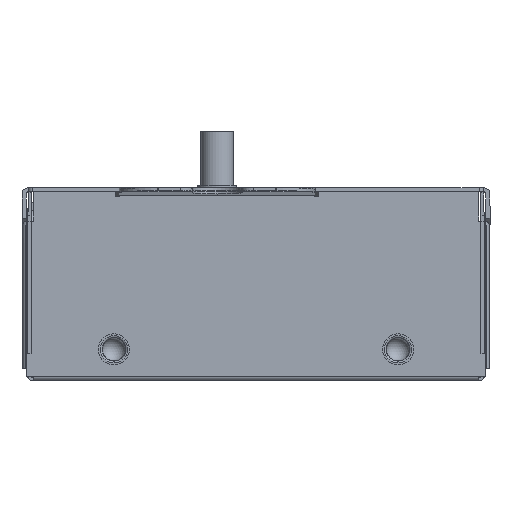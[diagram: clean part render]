
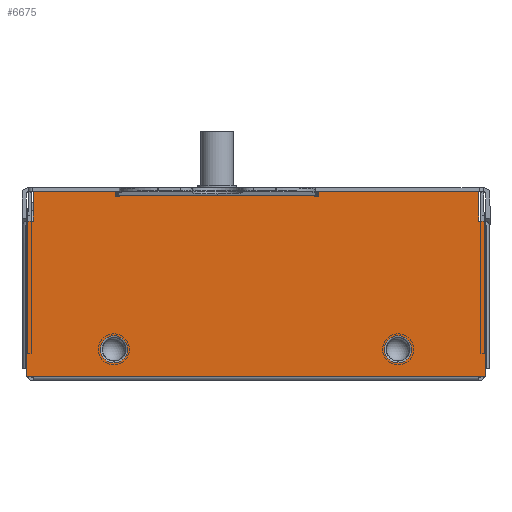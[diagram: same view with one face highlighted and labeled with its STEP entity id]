
A CAD part, left-side view. The second image highlights one B-rep face of the part: STEP entity #6675.
In plain terms, the highlighted planar face has unit normal (-1, 0, 0).
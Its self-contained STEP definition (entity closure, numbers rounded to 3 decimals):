
#6345=CARTESIAN_POINT('',(-0.4,58.25,20.5));
#6346=VERTEX_POINT('',#6345);
#6353=CARTESIAN_POINT('',(-0.4,57.55,20.5));
#6354=VERTEX_POINT('',#6353);
#6355=CARTESIAN_POINT('',(-0.4,57.55,20.5));
#6356=DIRECTION('',(0.0,1.0,0.0));
#6357=VECTOR('',#6356,0.7);
#6358=LINE('',#6355,#6357);
#6359=EDGE_CURVE('',#6354,#6346,#6358,.T.);
#6384=CARTESIAN_POINT('',(-0.4,57.55,24.25));
#6385=VERTEX_POINT('',#6384);
#6386=CARTESIAN_POINT('',(-0.4,57.55,24.25));
#6387=DIRECTION('',(0.0,0.0,-1.0));
#6388=VECTOR('',#6387,3.75);
#6389=LINE('',#6386,#6388);
#6390=EDGE_CURVE('',#6385,#6354,#6389,.T.);
#6416=CARTESIAN_POINT('',(-0.4,0.299,24.25));
#6417=VERTEX_POINT('',#6416);
#6424=CARTESIAN_POINT('',(-0.4,0.299,20.5));
#6425=VERTEX_POINT('',#6424);
#6426=CARTESIAN_POINT('',(-0.4,0.299,20.5));
#6427=DIRECTION('',(0.0,0.0,1.0));
#6428=VECTOR('',#6427,3.75);
#6429=LINE('',#6426,#6428);
#6430=EDGE_CURVE('',#6425,#6417,#6429,.T.);
#6455=CARTESIAN_POINT('',(-0.4,-0.401,20.5));
#6456=VERTEX_POINT('',#6455);
#6457=CARTESIAN_POINT('',(-0.4,-0.401,20.5));
#6458=DIRECTION('',(0.0,1.0,0.0));
#6459=VECTOR('',#6458,0.7);
#6460=LINE('',#6457,#6459);
#6461=EDGE_CURVE('',#6456,#6425,#6460,.T.);
#6518=CARTESIAN_POINT('',(-0.4,28.925,12.149));
#6519=DIRECTION('',(1.0,0.0,0.0));
#6520=DIRECTION('',(0.0,0.0,-1.0));
#6521=AXIS2_PLACEMENT_3D('',#6518,#6519,#6520);
#6522=PLANE('',#6521);
#6523=ORIENTED_EDGE('',*,*,#6390,.T.);
#6524=ORIENTED_EDGE('',*,*,#6359,.T.);
#6525=CARTESIAN_POINT('',(-0.4,58.367,20.5));
#6526=VERTEX_POINT('',#6525);
#6527=CARTESIAN_POINT('',(-0.4,58.25,20.5));
#6528=DIRECTION('',(0.0,1.0,0.0));
#6529=VECTOR('',#6528,0.118);
#6530=LINE('',#6527,#6529);
#6531=EDGE_CURVE('',#6346,#6526,#6530,.T.);
#6532=ORIENTED_EDGE('',*,*,#6531,.T.);
#6533=CARTESIAN_POINT('',(-0.4,58.367,0.533));
#6534=VERTEX_POINT('',#6533);
#6535=CARTESIAN_POINT('',(-0.4,58.367,20.5));
#6536=DIRECTION('',(0.0,0.0,-1.0));
#6537=VECTOR('',#6536,19.967);
#6538=LINE('',#6535,#6537);
#6539=EDGE_CURVE('',#6526,#6534,#6538,.T.);
#6540=ORIENTED_EDGE('',*,*,#6539,.T.);
#6541=CARTESIAN_POINT('',(-0.4,57.567,0.533));
#6542=VERTEX_POINT('',#6541);
#6543=CARTESIAN_POINT('',(-0.4,57.567,0.533));
#6544=DIRECTION('',(0.0,1.0,0.0));
#6545=VECTOR('',#6544,0.8);
#6546=LINE('',#6543,#6545);
#6547=EDGE_CURVE('',#6542,#6534,#6546,.T.);
#6548=ORIENTED_EDGE('',*,*,#6547,.F.);
#6549=CARTESIAN_POINT('',(-0.4,0.283,0.533));
#6550=VERTEX_POINT('',#6549);
#6551=CARTESIAN_POINT('',(-0.4,57.567,0.533));
#6552=DIRECTION('',(0.0,-1.0,0.0));
#6553=VECTOR('',#6552,57.284);
#6554=LINE('',#6551,#6553);
#6555=EDGE_CURVE('',#6542,#6550,#6554,.T.);
#6556=ORIENTED_EDGE('',*,*,#6555,.T.);
#6557=CARTESIAN_POINT('',(-0.4,-0.517,0.533));
#6558=VERTEX_POINT('',#6557);
#6559=CARTESIAN_POINT('',(-0.4,0.283,0.533));
#6560=DIRECTION('',(0.0,-1.0,0.0));
#6561=VECTOR('',#6560,0.8);
#6562=LINE('',#6559,#6561);
#6563=EDGE_CURVE('',#6550,#6558,#6562,.T.);
#6564=ORIENTED_EDGE('',*,*,#6563,.T.);
#6565=CARTESIAN_POINT('',(-0.4,-0.517,20.5));
#6566=VERTEX_POINT('',#6565);
#6567=CARTESIAN_POINT('',(-0.4,-0.517,0.533));
#6568=DIRECTION('',(0.0,0.0,1.0));
#6569=VECTOR('',#6568,19.967);
#6570=LINE('',#6567,#6569);
#6571=EDGE_CURVE('',#6558,#6566,#6570,.T.);
#6572=ORIENTED_EDGE('',*,*,#6571,.T.);
#6573=CARTESIAN_POINT('',(-0.4,-0.517,20.5));
#6574=DIRECTION('',(0.0,1.0,0.0));
#6575=VECTOR('',#6574,0.117);
#6576=LINE('',#6573,#6575);
#6577=EDGE_CURVE('',#6566,#6456,#6576,.T.);
#6578=ORIENTED_EDGE('',*,*,#6577,.T.);
#6579=ORIENTED_EDGE('',*,*,#6461,.T.);
#6580=ORIENTED_EDGE('',*,*,#6430,.T.);
#6581=CARTESIAN_POINT('',(-0.4,20.842,24.25));
#6582=VERTEX_POINT('',#6581);
#6583=CARTESIAN_POINT('',(-0.4,20.842,24.25));
#6584=DIRECTION('',(0.0,-1.0,0.0));
#6585=VECTOR('',#6584,20.542);
#6586=LINE('',#6583,#6585);
#6587=EDGE_CURVE('',#6582,#6417,#6586,.T.);
#6588=ORIENTED_EDGE('',*,*,#6587,.F.);
#6589=CARTESIAN_POINT('',(-0.4,20.842,23.717));
#6590=VERTEX_POINT('',#6589);
#6591=CARTESIAN_POINT('',(-0.4,20.842,24.25));
#6592=DIRECTION('',(0.0,0.0,-1.0));
#6593=VECTOR('',#6592,0.533);
#6594=LINE('',#6591,#6593);
#6595=EDGE_CURVE('',#6582,#6590,#6594,.T.);
#6596=ORIENTED_EDGE('',*,*,#6595,.T.);
#6597=CARTESIAN_POINT('',(-0.4,21.375,23.717));
#6598=VERTEX_POINT('',#6597);
#6599=CARTESIAN_POINT('',(-0.4,20.842,23.717));
#6600=DIRECTION('',(0.0,1.0,0.0));
#6601=VECTOR('',#6600,0.533);
#6602=LINE('',#6599,#6601);
#6603=EDGE_CURVE('',#6590,#6598,#6602,.T.);
#6604=ORIENTED_EDGE('',*,*,#6603,.T.);
#6605=CARTESIAN_POINT('',(-0.4,21.375,23.744));
#6606=VERTEX_POINT('',#6605);
#6607=CARTESIAN_POINT('',(-0.4,21.375,23.717));
#6608=DIRECTION('',(0.0,0.0,1.0));
#6609=VECTOR('',#6608,0.027);
#6610=LINE('',#6607,#6609);
#6611=EDGE_CURVE('',#6598,#6606,#6610,.T.);
#6612=ORIENTED_EDGE('',*,*,#6611,.T.);
#6613=CARTESIAN_POINT('',(-0.4,46.475,23.744));
#6614=VERTEX_POINT('',#6613);
#6615=CARTESIAN_POINT('',(-0.4,21.375,23.744));
#6616=DIRECTION('',(0.0,1.0,0.0));
#6617=VECTOR('',#6616,25.1);
#6618=LINE('',#6615,#6617);
#6619=EDGE_CURVE('',#6606,#6614,#6618,.T.);
#6620=ORIENTED_EDGE('',*,*,#6619,.T.);
#6621=CARTESIAN_POINT('',(-0.4,46.475,23.717));
#6622=VERTEX_POINT('',#6621);
#6623=CARTESIAN_POINT('',(-0.4,46.475,23.744));
#6624=DIRECTION('',(0.0,0.0,-1.0));
#6625=VECTOR('',#6624,0.027);
#6626=LINE('',#6623,#6625);
#6627=EDGE_CURVE('',#6614,#6622,#6626,.T.);
#6628=ORIENTED_EDGE('',*,*,#6627,.T.);
#6629=CARTESIAN_POINT('',(-0.4,47.008,23.717));
#6630=VERTEX_POINT('',#6629);
#6631=CARTESIAN_POINT('',(-0.4,46.475,23.717));
#6632=DIRECTION('',(0.0,1.0,0.0));
#6633=VECTOR('',#6632,0.533);
#6634=LINE('',#6631,#6633);
#6635=EDGE_CURVE('',#6622,#6630,#6634,.T.);
#6636=ORIENTED_EDGE('',*,*,#6635,.T.);
#6637=CARTESIAN_POINT('',(-0.4,47.008,24.25));
#6638=VERTEX_POINT('',#6637);
#6639=CARTESIAN_POINT('',(-0.4,47.008,23.717));
#6640=DIRECTION('',(0.0,0.0,1.0));
#6641=VECTOR('',#6640,0.533);
#6642=LINE('',#6639,#6641);
#6643=EDGE_CURVE('',#6630,#6638,#6642,.T.);
#6644=ORIENTED_EDGE('',*,*,#6643,.T.);
#6645=CARTESIAN_POINT('',(-0.4,57.55,24.25));
#6646=DIRECTION('',(0.0,-1.0,0.0));
#6647=VECTOR('',#6646,10.541);
#6648=LINE('',#6645,#6647);
#6649=EDGE_CURVE('',#6385,#6638,#6648,.T.);
#6650=ORIENTED_EDGE('',*,*,#6649,.F.);
#6651=EDGE_LOOP('',(#6523,#6524,#6532,#6540,#6548,#6556,#6564,#6572,#6578,#6579,#6580,#6588,#6596,#6604,#6612,#6620,#6628,#6636,#6644,#6650));
#6652=FACE_OUTER_BOUND('',#6651,.T.);
#6653=CARTESIAN_POINT('',(-0.4,10.675,2.25));
#6654=VERTEX_POINT('',#6653);
#6655=CARTESIAN_POINT('',(-0.4,10.675,4.));
#6656=DIRECTION('',(-1.0,0.0,0.0));
#6657=DIRECTION('',(0.0,0.0,1.0));
#6658=AXIS2_PLACEMENT_3D('',#6655,#6656,#6657);
#6659=CIRCLE('',#6658,1.75);
#6660=EDGE_CURVE('',#6654,#6654,#6659,.T.);
#6661=ORIENTED_EDGE('',*,*,#6660,.F.);
#6662=EDGE_LOOP('',(#6661));
#6663=FACE_BOUND('',#6662,.T.);
#6664=CARTESIAN_POINT('',(-0.4,47.175,2.25));
#6665=VERTEX_POINT('',#6664);
#6666=CARTESIAN_POINT('',(-0.4,47.175,4.));
#6667=DIRECTION('',(-1.0,0.0,0.0));
#6668=DIRECTION('',(0.0,0.0,1.0));
#6669=AXIS2_PLACEMENT_3D('',#6666,#6667,#6668);
#6670=CIRCLE('',#6669,1.75);
#6671=EDGE_CURVE('',#6665,#6665,#6670,.T.);
#6672=ORIENTED_EDGE('',*,*,#6671,.F.);
#6673=EDGE_LOOP('',(#6672));
#6674=FACE_BOUND('',#6673,.T.);
#6675=ADVANCED_FACE('',(#6652,#6663,#6674),#6522,.F.);
